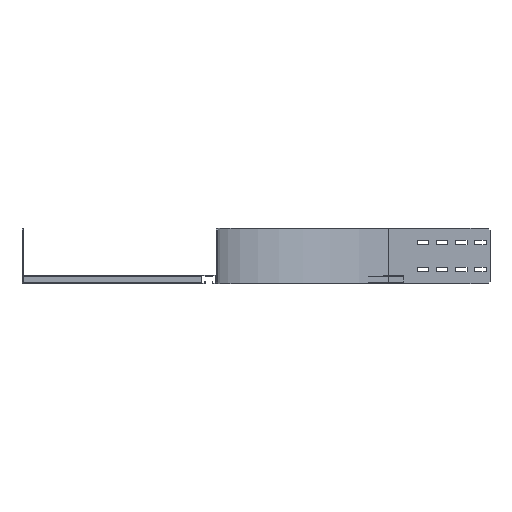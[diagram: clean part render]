
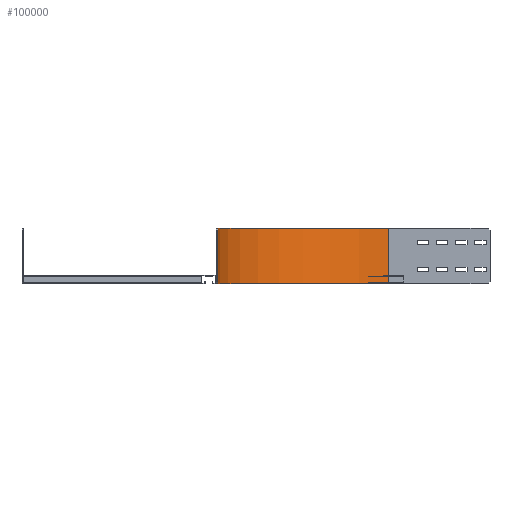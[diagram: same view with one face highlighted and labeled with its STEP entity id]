
A CAD part, left-side view. The second image highlights one B-rep face of the part: STEP entity #100000.
In plain terms, the highlighted cylindrical face has radius 447 mm (diameter 894 mm), a partial arc.
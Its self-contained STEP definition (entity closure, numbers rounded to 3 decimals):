
#77660=CARTESIAN_POINT('',(0.,-450.,0.));
#77670=DIRECTION('',(0.,0.,-1.));
#77680=DIRECTION('',(-1.,0.,0.));
#77690=AXIS2_PLACEMENT_3D('',#77660,#77670,#77680);
#77700=CIRCLE('',#77690,447.);
#77710=CARTESIAN_POINT('',(0.,-3.,0.));
#77720=VERTEX_POINT('',#77710);
#77730=CARTESIAN_POINT('',(447.,-450.,0.));
#77740=VERTEX_POINT('',#77730);
#77750=EDGE_CURVE('',#77720,#77740,#77700,.T.);
#81810=CARTESIAN_POINT('',(0.,-3.,-145.));
#81820=VERTEX_POINT('',#81810);
#81850=CARTESIAN_POINT('',(0.,-450.,-145.));
#81860=DIRECTION('',(0.,0.,-1.));
#81870=DIRECTION('',(-1.,0.,0.));
#81880=AXIS2_PLACEMENT_3D('',#81850,#81860,#81870);
#81890=CIRCLE('',#81880,447.);
#81900=CARTESIAN_POINT('',(447.,-450.,-145.));
#81910=VERTEX_POINT('',#81900);
#81920=EDGE_CURVE('',#81820,#81910,#81890,.T.);
#85580=CARTESIAN_POINT('',(447.,-450.,0.));
#85590=DIRECTION('',(0.,0.,-1.));
#85600=VECTOR('',#85590,1.);
#85610=LINE('',#85580,#85600);
#85620=EDGE_CURVE('',#77740,#81910,#85610,.T.);
#91380=CARTESIAN_POINT('',(0.,-3.,0.));
#91390=DIRECTION('',(0.,0.,-1.));
#91400=VECTOR('',#91390,1.);
#91410=LINE('',#91380,#91400);
#91420=EDGE_CURVE('',#77720,#81820,#91410,.T.);
#99890=CARTESIAN_POINT('',(0.,-450.,0.));
#99900=DIRECTION('',(0.,0.,-1.));
#99910=DIRECTION('',(-1.,0.,0.));
#99920=AXIS2_PLACEMENT_3D('',#99890,#99900,#99910);
#99930=CYLINDRICAL_SURFACE('',#99920,447.);
#99940=ORIENTED_EDGE('',*,*,#77750,.F.);
#99950=ORIENTED_EDGE('',*,*,#85620,.F.);
#99960=ORIENTED_EDGE('',*,*,#81920,.T.);
#99970=ORIENTED_EDGE('',*,*,#91420,.T.);
#99980=EDGE_LOOP('',(#99970,#99960,#99950,#99940));
#99990=FACE_OUTER_BOUND('',#99980,.T.);
#100000=ADVANCED_FACE('',(#99990),#99930,.F.);
